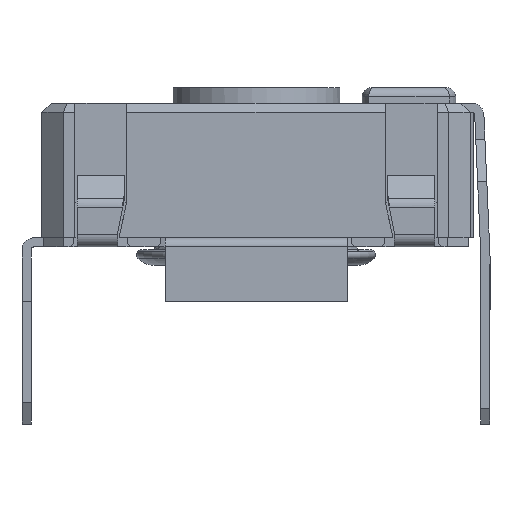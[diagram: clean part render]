
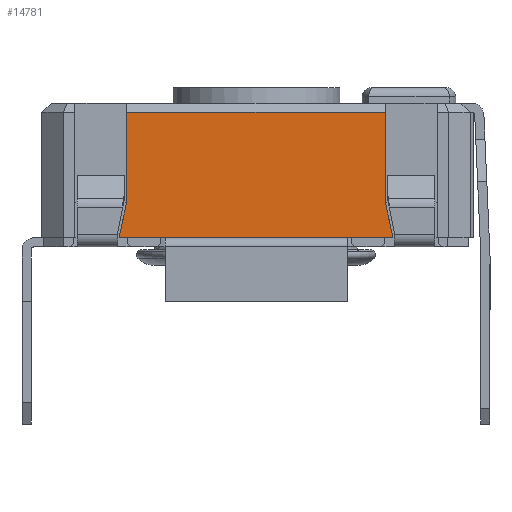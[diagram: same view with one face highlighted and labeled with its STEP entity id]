
A CAD part, left-side view. The second image highlights one B-rep face of the part: STEP entity #14781.
In plain terms, the highlighted planar face has unit normal (-1, 0, 0).
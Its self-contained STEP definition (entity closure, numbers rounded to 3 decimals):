
#1338=FACE_OUTER_BOUND('',#2102,.T.);
#2102=EDGE_LOOP('',(#12549,#12550,#12551,#12552,#12553,#12554));
#3033=LINE('',#22349,#4643);
#3332=LINE('',#23295,#4942);
#3336=LINE('',#23302,#4946);
#3693=LINE('',#24067,#5303);
#3698=LINE('',#24075,#5308);
#3699=LINE('',#24077,#5309);
#4643=VECTOR('',#18011,10.);
#4942=VECTOR('',#18740,10.);
#4946=VECTOR('',#18746,10.);
#5303=VECTOR('',#19491,10.);
#5308=VECTOR('',#19498,10.);
#5309=VECTOR('',#19501,10.);
#6172=VERTEX_POINT('',#22346);
#6173=VERTEX_POINT('',#22348);
#6464=VERTEX_POINT('',#23292);
#6465=VERTEX_POINT('',#23294);
#6467=VERTEX_POINT('',#23300);
#6667=VERTEX_POINT('',#24073);
#7853=EDGE_CURVE('',#6172,#6173,#3033,.T.);
#8263=EDGE_CURVE('',#6464,#6465,#3332,.T.);
#8267=EDGE_CURVE('',#6464,#6467,#3336,.T.);
#8648=EDGE_CURVE('',#6173,#6467,#3693,.T.);
#8653=EDGE_CURVE('',#6667,#6172,#3698,.T.);
#8654=EDGE_CURVE('',#6667,#6465,#3699,.T.);
#12549=ORIENTED_EDGE('',*,*,#8263,.F.);
#12550=ORIENTED_EDGE('',*,*,#8267,.T.);
#12551=ORIENTED_EDGE('',*,*,#8648,.F.);
#12552=ORIENTED_EDGE('',*,*,#7853,.F.);
#12553=ORIENTED_EDGE('',*,*,#8653,.F.);
#12554=ORIENTED_EDGE('',*,*,#8654,.T.);
#13337=PLANE('',#15879);
#14781=ADVANCED_FACE('',(#1338),#13337,.T.);
#15879=AXIS2_PLACEMENT_3D('',#24111,#19547,#19548);
#18011=DIRECTION('',(0.,1.,0.));
#18740=DIRECTION('',(0.,-1.,0.));
#18746=DIRECTION('',(0.,0.,-1.));
#19491=DIRECTION('',(0.,-0.208,0.978));
#19498=DIRECTION('',(0.,-0.208,-0.978));
#19501=DIRECTION('',(0.,0.,1.));
#19547=DIRECTION('center_axis',(-1.,0.,0.));
#19548=DIRECTION('ref_axis',(0.,0.,1.));
#22346=CARTESIAN_POINT('',(-7.,-4.425,-2.225));
#22348=CARTESIAN_POINT('',(-7.,4.525,-2.225));
#22349=CARTESIAN_POINT('',(-7.,-6.25,-2.225));
#23292=CARTESIAN_POINT('',(-7.,4.275,1.875));
#23294=CARTESIAN_POINT('',(-7.,-4.175,1.875));
#23295=CARTESIAN_POINT('',(-7.,-3.1,1.875));
#23300=CARTESIAN_POINT('',(-7.,4.275,-1.049));
#23302=CARTESIAN_POINT('',(-7.,4.275,-2.225));
#24067=CARTESIAN_POINT('',(-7.,4.525,-2.225));
#24073=CARTESIAN_POINT('',(-7.,-4.175,-1.049));
#24075=CARTESIAN_POINT('',(-7.,-4.175,-1.049));
#24077=CARTESIAN_POINT('',(-7.,-4.175,-2.225));
#24111=CARTESIAN_POINT('Origin',(-7.,-6.25,-2.225));
